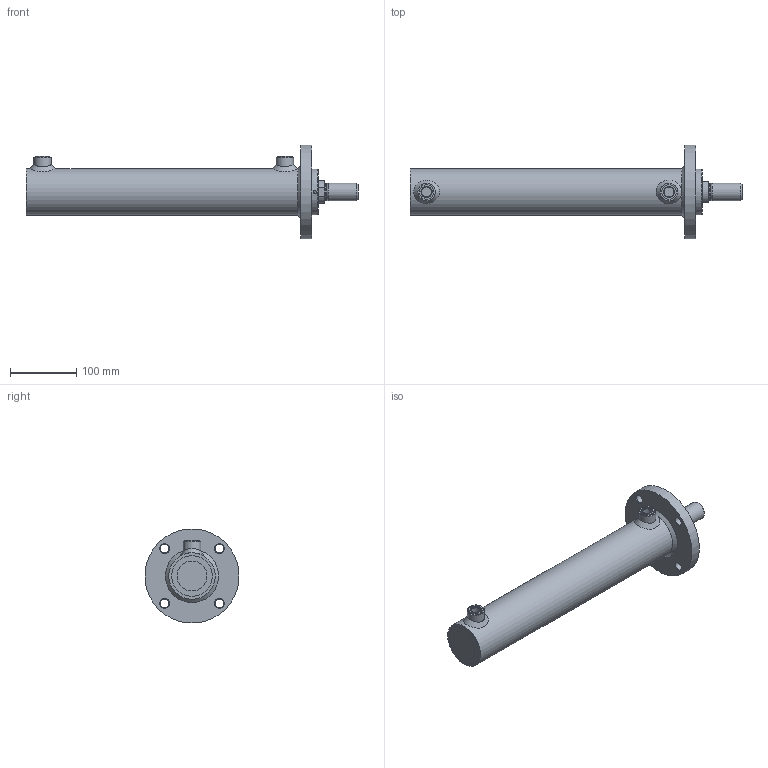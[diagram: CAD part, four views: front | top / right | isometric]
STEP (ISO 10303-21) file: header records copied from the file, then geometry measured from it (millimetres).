
FILE_DESCRIPTION( ( 'Unknown' ), '1' );
FILE_NAME( 'E:/LIBRERIA_3d/CILINDRI/HMF/HMF3350300.stp', 'Unknown', ( 'Unknown' ), ( 'Unknown' ), 'PSStep 17.0.49', 'Unknown', ' ' );
FILE_SCHEMA( ( 'AUTOMOTIVE_DESIGN { 1 0 10303 214 1 1 1 1 }' ) );
Length unit declared in the file: millimetre
Products named in the file (23): STFG060050300-oa6; MAT_PRIMA_TUBO_FT07006000-oa2; Saldatura con preparazione 1-oa3; Saldatura d'angolo 1-oa4; Saldatura d'angolo 2-oa5; CFL0070142; CBS0600000; CG07006035; CT00060024; Assem1; Saldatura con preparazione 1-oa0; Saldatura d'angolo 1-oa1; CFI0610015; APG0600000; CDA0002420; SBFG350600300
Assembly tree (18 placements, depth 3):
  Saldatura d'angolo 1-oa4
  Saldatura d'angolo 1-oa4
  Saldatura d'angolo 2-oa5
  Saldatura d'angolo 2-oa5
  Assem1
    Saldatura con preparazione 1-oa0
    Saldatura con preparazione 1-oa0
    CFI0610015
    CBS0600000
    APG0600000  x2
    CDA0002420
    SBFG350600300
    CG07006035
      CG07006035
    CT00060024
      CT00060024
    STFG060050300-oa6
      MAT_PRIMA_TUBO_FT07006000-oa2
      Saldatura con preparazione 1-oa3
      Saldatura con preparazione 1-oa3
      CFL0070142
      CBS0600000
Bounding box: 500 x 141.46 x 141.46 mm (x, y, z)
Volume: 1290165.3 mm3; surface area: 362687.5 mm2
Topology: 21 solids, 21 shells, 230 faces, 464 edges, 288 vertices
Faces by surface type: cylinder 69, plane 69, torus 45, cone 39, bspline 8
Full cylindrical faces by diameter (mm): 5 x2, 6 x2, 7 x2, 13 x4, 14.95 x2, 16 x2, 16.6 x2, 22 x2, 23.4 x1, 24 x6, 26 x4, 27 x1, 28.5 x1, 35 x4, 36 x1, 37 x1, 38 x1, 43.6 x1, 44 x1, 45 x1, 55 x1, 55.39 x2, 58.65 x2, 60 x1, 60.3 x1, 60.5 x1, 60.6 x1, 61 x5, 62.376 x1, 64 x1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
Entity records: 9856 total; most frequent: CARTESIAN_POINT 4161, DIRECTION 874, ORIENTED_EDGE 496, AXIS2_PLACEMENT_3D 421, EDGE_LOOP 412, FACE_OUTER_BOUND 322, EDGE_CURVE 248, VERTEX_POINT 230
